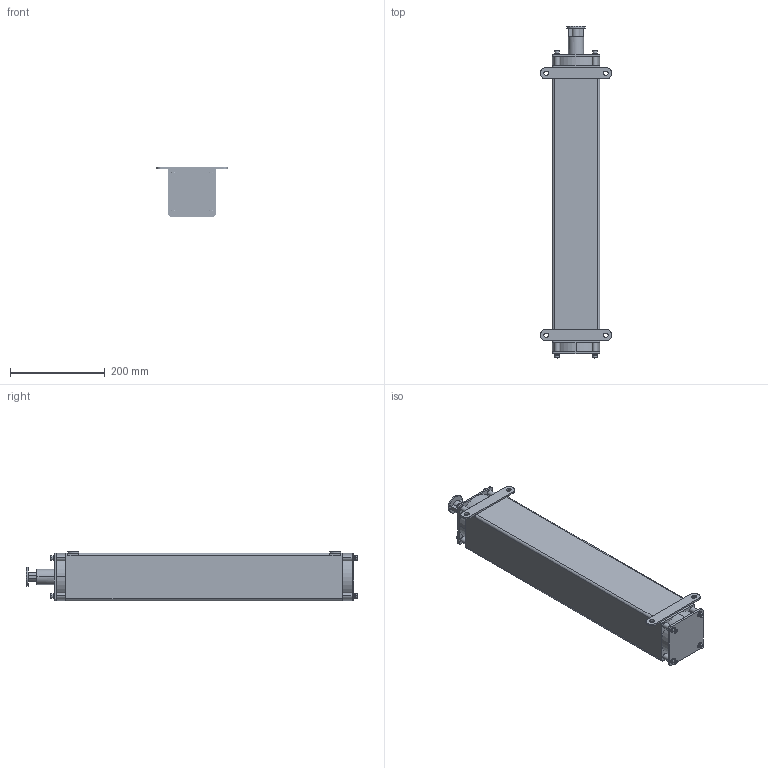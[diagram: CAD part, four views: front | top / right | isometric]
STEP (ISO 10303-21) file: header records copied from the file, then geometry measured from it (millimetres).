
FILE_DESCRIPTION((''),'2;1');
FILE_NAME('EFB-EX_ASM','2021-08-19T10:26:02',('18720616900'),(''),'CREO PARAMETRIC BY PTC INC, 2019010','CREO PARAMETRIC BY PTC INC, 2019010','');
FILE_SCHEMA(('CONFIG_CONTROL_DESIGN'));
Length unit declared in the file: millimetre
Products named in the file (6): EFB-EX-115; M6-50-0001; M6-1--00; M6-1-00; 0001_ASM; EFB-EX_ASM
Assembly tree (12 placements, depth 3):
  EFB-EX_ASM
    EFB-EX-115
    0001_ASM  x8
      M6-50-0001
      M6-1--00
      M6-1-00
Bounding box: 150 x 699.5 x 104 mm (x, y, z)
Volume: 852409.4 mm3; surface area: 535853.3 mm2
Topology: 25 solids, 33 shells, 1251 faces, 3238 edges, 2074 vertices
Faces by surface type: cone 488, plane 265, bspline 264, cylinder 184, torus 50
Entity records: 19649 total; most frequent: CARTESIAN_POINT 10843, ORIENTED_EDGE 1810, DIRECTION 1750, EDGE_CURVE 921, AXIS2_PLACEMENT_3D 657, VERTEX_POINT 597, VECTOR 436, LINE 436
